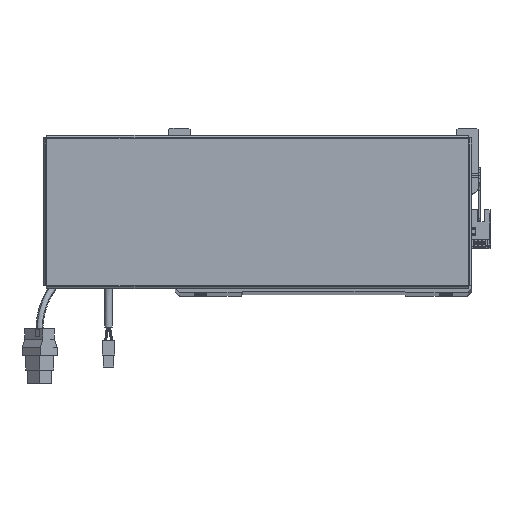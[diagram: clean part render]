
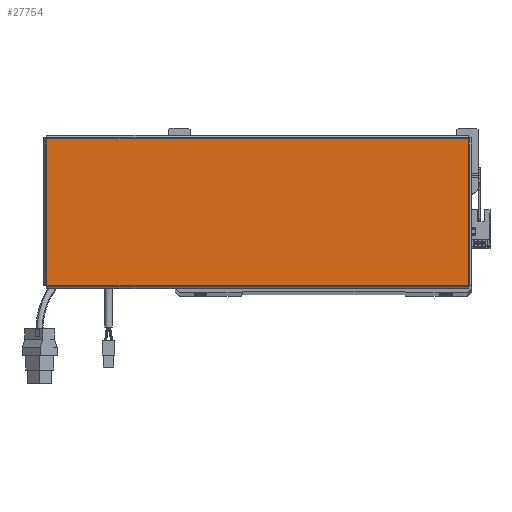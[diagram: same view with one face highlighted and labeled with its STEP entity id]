
A CAD part, top view. The second image highlights one B-rep face of the part: STEP entity #27754.
In plain terms, the highlighted planar face has unit normal (0, 0, 1).
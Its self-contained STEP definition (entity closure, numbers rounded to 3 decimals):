
#1388 = EDGE_CURVE ( 'NONE', #16653, #58213, #55509, .T. ) ;
#1499 = VECTOR ( 'NONE', #2381, 1000. ) ;
#2381 = DIRECTION ( 'NONE',  ( 1., 0., 0. ) ) ;
#5652 = CARTESIAN_POINT ( 'NONE',  ( 156.513, -54.793, 0. ) ) ;
#7384 = CARTESIAN_POINT ( 'NONE',  ( 0., 0., 0. ) ) ;
#8865 = ORIENTED_EDGE ( 'NONE', *, *, #61977, .T. ) ;
#15046 = LINE ( 'NONE', #5652, #26339 ) ;
#15169 = CARTESIAN_POINT ( 'NONE',  ( 156.513, 54.763, 0. ) ) ;
#16653 = VERTEX_POINT ( 'NONE', #49313 ) ;
#19952 = AXIS2_PLACEMENT_3D ( 'NONE', #7384, #40745, #51952 ) ;
#21468 = CARTESIAN_POINT ( 'NONE',  ( -156.513, 54.763, 0. ) ) ;
#26339 = VECTOR ( 'NONE', #49700, 1000. ) ;
#26913 = FACE_OUTER_BOUND ( 'NONE', #30579, .T. ) ;
#27754 = ADVANCED_FACE ( 'NONE', ( #26913 ), #52430, .T. ) ;
#29449 = VERTEX_POINT ( 'NONE', #15169 ) ;
#30579 = EDGE_LOOP ( 'NONE', ( #64323, #8865, #62709, #69532 ) ) ;
#36467 = LINE ( 'NONE', #44109, #59180 ) ;
#38121 = EDGE_CURVE ( 'NONE', #29449, #67341, #56605, .T. ) ;
#38340 = CARTESIAN_POINT ( 'NONE',  ( 156.543, 54.763, 0. ) ) ;
#40745 = DIRECTION ( 'NONE',  ( 0., 0., 1. ) ) ;
#40913 = VECTOR ( 'NONE', #55186, 1000. ) ;
#43402 = DIRECTION ( 'NONE',  ( 0., -1., 0. ) ) ;
#44109 = CARTESIAN_POINT ( 'NONE',  ( -156.513, 54.793, 0. ) ) ;
#49313 = CARTESIAN_POINT ( 'NONE',  ( -156.513, -54.763, 0. ) ) ;
#49700 = DIRECTION ( 'NONE',  ( 0., 1., 0. ) ) ;
#51952 = DIRECTION ( 'NONE',  ( 1., 0., 0. ) ) ;
#52430 = PLANE ( 'NONE',  #19952 ) ;
#55186 = DIRECTION ( 'NONE',  ( -1., 0., 0. ) ) ;
#55509 = LINE ( 'NONE', #63774, #1499 ) ;
#56605 = LINE ( 'NONE', #38340, #40913 ) ;
#57618 = CARTESIAN_POINT ( 'NONE',  ( 156.513, -54.763, 0. ) ) ;
#58213 = VERTEX_POINT ( 'NONE', #57618 ) ;
#59180 = VECTOR ( 'NONE', #43402, 1000. ) ;
#61977 = EDGE_CURVE ( 'NONE', #58213, #29449, #15046, .T. ) ;
#62709 = ORIENTED_EDGE ( 'NONE', *, *, #38121, .T. ) ;
#63774 = CARTESIAN_POINT ( 'NONE',  ( -156.543, -54.763, 0. ) ) ;
#64323 = ORIENTED_EDGE ( 'NONE', *, *, #1388, .T. ) ;
#67341 = VERTEX_POINT ( 'NONE', #21468 ) ;
#69532 = ORIENTED_EDGE ( 'NONE', *, *, #70866, .T. ) ;
#70866 = EDGE_CURVE ( 'NONE', #67341, #16653, #36467, .T. ) ;
